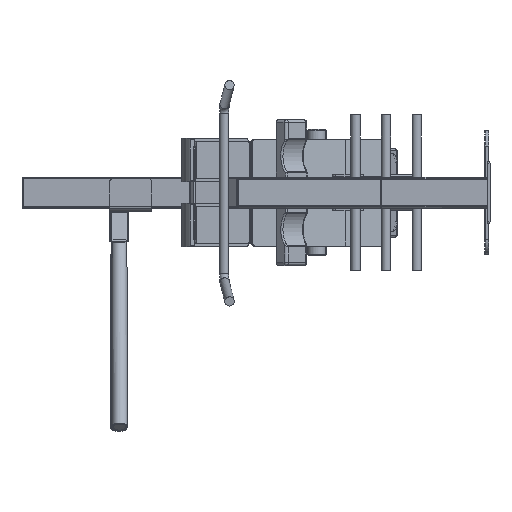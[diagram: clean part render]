
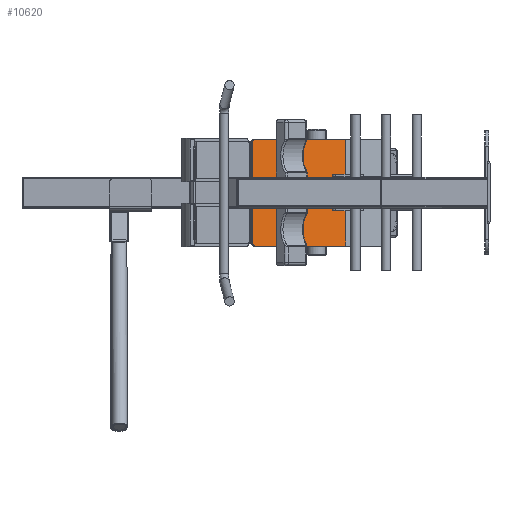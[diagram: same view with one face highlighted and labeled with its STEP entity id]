
A CAD part, left-side view. The second image highlights one B-rep face of the part: STEP entity #10620.
In plain terms, the highlighted planar face has unit normal (-0.857, -0.515, 0).
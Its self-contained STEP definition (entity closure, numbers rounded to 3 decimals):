
#771=FACE_OUTER_BOUND('',#1439,.T.);
#1439=EDGE_LOOP('',(#7642,#7643,#7644,#7645,#7646,#7647,#7648,#7649));
#2089=CIRCLE('',#11428,10.);
#2090=CIRCLE('',#11430,10.);
#2681=LINE('',#16584,#3639);
#2686=LINE('',#16595,#3644);
#2691=LINE('',#16604,#3649);
#2699=LINE('',#16619,#3657);
#2700=LINE('',#16633,#3658);
#2701=LINE('',#16634,#3659);
#3639=VECTOR('',#13073,340.);
#3644=VECTOR('',#13082,340.);
#3649=VECTOR('',#13089,324.);
#3657=VECTOR('',#13103,104.);
#3658=VECTOR('',#13130,120.);
#3659=VECTOR('',#13131,120.);
#4609=VERTEX_POINT('',#16581);
#4610=VERTEX_POINT('',#16583);
#4613=VERTEX_POINT('',#16593);
#4614=VERTEX_POINT('',#16594);
#4616=VERTEX_POINT('',#16601);
#4617=VERTEX_POINT('',#16603);
#4618=VERTEX_POINT('',#16607);
#4621=VERTEX_POINT('',#16615);
#5729=EDGE_CURVE('',#4610,#4609,#2681,.T.);
#5734=EDGE_CURVE('',#4613,#4614,#2686,.T.);
#5739=EDGE_CURVE('',#4617,#4616,#2691,.T.);
#5747=EDGE_CURVE('',#4621,#4618,#2699,.T.);
#5749=EDGE_CURVE('',#4610,#4616,#2089,.T.);
#5750=EDGE_CURVE('',#4617,#4614,#2090,.T.);
#5754=EDGE_CURVE('',#4609,#4618,#2700,.T.);
#5755=EDGE_CURVE('',#4621,#4613,#2701,.T.);
#7642=ORIENTED_EDGE('',*,*,#5754,.T.);
#7643=ORIENTED_EDGE('',*,*,#5747,.F.);
#7644=ORIENTED_EDGE('',*,*,#5755,.T.);
#7645=ORIENTED_EDGE('',*,*,#5734,.T.);
#7646=ORIENTED_EDGE('',*,*,#5750,.F.);
#7647=ORIENTED_EDGE('',*,*,#5739,.T.);
#7648=ORIENTED_EDGE('',*,*,#5749,.F.);
#7649=ORIENTED_EDGE('',*,*,#5729,.T.);
#10242=PLANE('',#11437);
#10620=ADVANCED_FACE('',(#771),#10242,.T.);
#11428=AXIS2_PLACEMENT_3D('',#16623,#13110,#13111);
#11430=AXIS2_PLACEMENT_3D('',#16625,#13114,#13115);
#11437=AXIS2_PLACEMENT_3D('',#16632,#13128,#13129);
#13073=DIRECTION('',(0.515,-0.857,0.));
#13082=DIRECTION('',(-0.515,0.857,0.));
#13089=DIRECTION('',(0.,0.,-1.));
#13103=DIRECTION('',(0.,0.,-1.));
#13110=DIRECTION('center_axis',(0.857,0.515,0.));
#13111=DIRECTION('ref_axis',(0.,0.,
-1.));
#13114=DIRECTION('center_axis',(0.857,0.515,0.));
#13115=DIRECTION('ref_axis',(-0.515,0.857,0.));
#13128=DIRECTION('center_axis',(-0.857,-0.515,0.));
#13129=DIRECTION('ref_axis',(0.,0.,
-1.));
#13130=DIRECTION('',(0.,0.,1.));
#13131=DIRECTION('',(0.,0.,1.));
#16581=CARTESIAN_POINT('',(475.663,465.114,-123.));
#16583=CARTESIAN_POINT('',(300.55,756.55,-123.));
#16584=CARTESIAN_POINT('',(300.55,756.55,-123.));
#16593=CARTESIAN_POINT('',(475.663,465.114,221.));
#16594=CARTESIAN_POINT('',(300.55,756.55,221.));
#16595=CARTESIAN_POINT('',(475.663,465.114,221.));
#16601=CARTESIAN_POINT('',(295.4,765.122,-113.));
#16603=CARTESIAN_POINT('',(295.4,765.122,211.));
#16604=CARTESIAN_POINT('',(295.4,765.122,211.));
#16607=CARTESIAN_POINT('',(475.663,465.114,-3.));
#16615=CARTESIAN_POINT('',(475.663,465.114,101.));
#16619=CARTESIAN_POINT('',(475.663,465.114,101.));
#16623=CARTESIAN_POINT('Origin',(300.55,756.55,-113.));
#16625=CARTESIAN_POINT('Origin',(300.55,756.55,211.));
#16632=CARTESIAN_POINT('Origin',(479.269,459.113,306.));
#16633=CARTESIAN_POINT('',(475.663,465.114,-123.));
#16634=CARTESIAN_POINT('',(475.663,465.114,101.));
